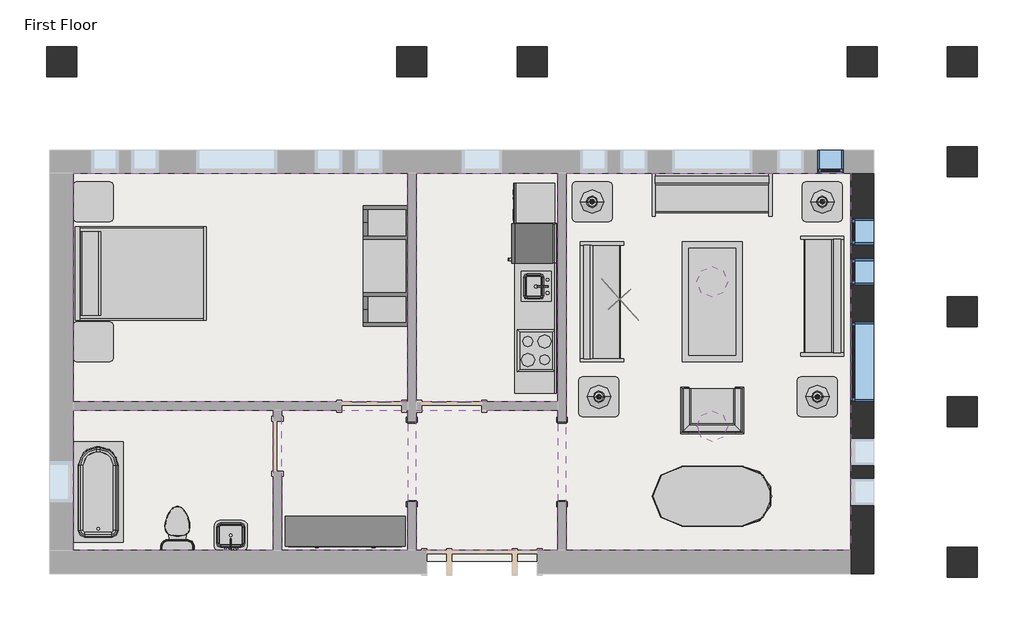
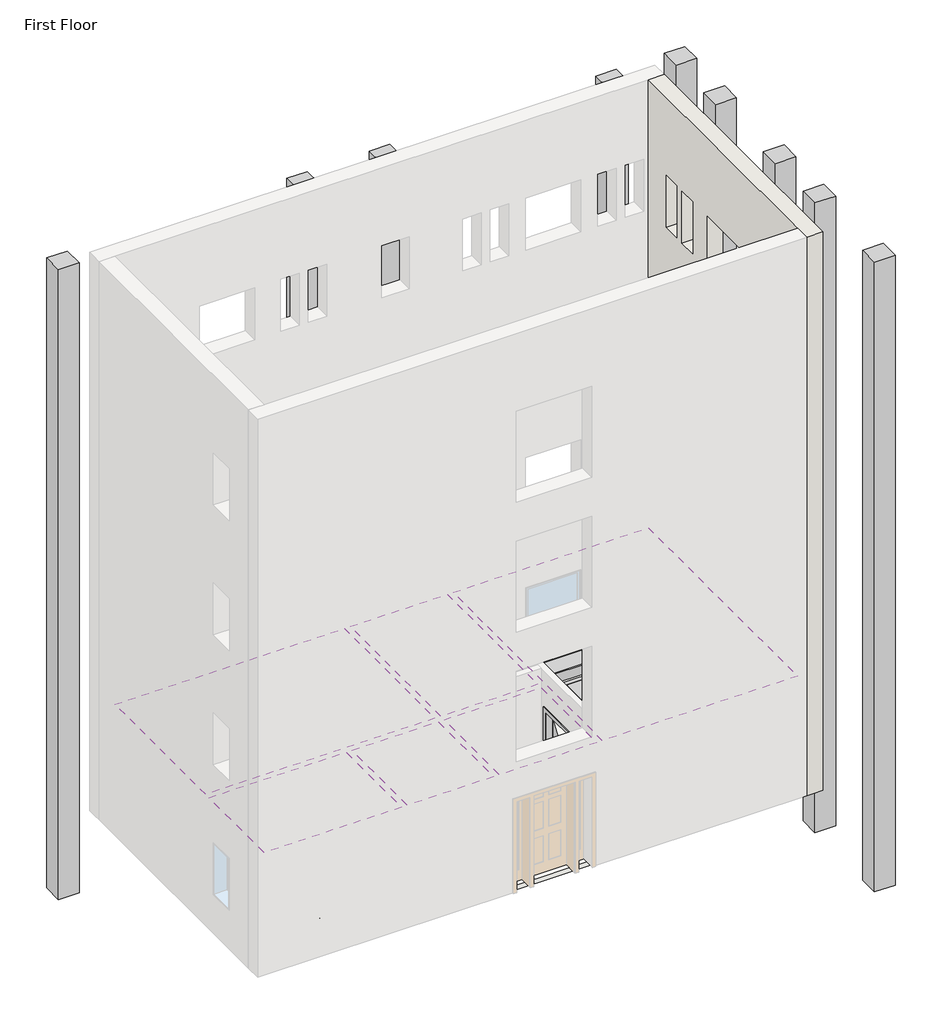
# One storey, part 2 of 2: 16 furniture elements, 9 columns, 7 proxies, 6 coverings, 6 light fixtures, 4 flow terminals, 4 windows, 1 slab, 1 wall.
"""IFC4 building model written with IfcOpenShell, lengths in millimetres."""

from ifc_helpers import new_model, si_unit, frame, origin, place, context, project, spatial, polyline, outline, extrude, faceted_brep, transform, mapped, element, save
from components import proxy_dfcd9396, proxy_3c49123c, proxy_7a545507, proxy_f44482cc, rpc_female_69e001fa, proxy_ec3341c2, flow_terminal_41332a36, flow_terminal_62a433f7, toilet_domestic_3d_toilet_domestic_3d_f7549cf7, toilet_domestic_3d_toilet_domestic_3d_183bbd19, tub_rectangular_3d_tub_rectangular_3d_15036965, furniture_096e7f55, chair_corbu_chair_corbu_2764bdef, furniture_6db689a5, furniture_7c473f12, furniture_cf0b6580, furniture_a4ffab56, furniture_cd93a443, furniture_2c34a4f9, furniture_3a588284, pendant_light_disk_100w_120v_c68bffb6, table_lamp_standard_60w_120v_6e8cd8b1, window_da97879f, window_d61ef850, window_6eb97611

model = new_model("IFC4")

# Units and contexts
model_context = context("Model", 3, world=origin())
ifc_project = project(units=[si_unit("LENGTHUNIT", "METRE", prefix="MILLI")], contexts=[model_context])

# Site, building, storey
site = spatial("IfcSite", under=ifc_project)
building = spatial("IfcBuilding", under=site)
storey = spatial("IfcBuildingStorey", under=building, Name="First Floor", Elevation=0.0)

# Proxies
placement = place(None, origin())
proxy_shape = proxy_dfcd9396(model_context)
element("IfcBuildingElementProxy", 1, Name="Cook Top-4 Unit2 : 22\" x 20\"", ObjectType="Cook Top-4 Unit2 : 22\" x 20\"", at=placement, inside=storey, context=model_context, shape_type="MappedRepresentation", body=[
    mapped(proxy_shape, transform((-4167.1589563, 7568.5224391, 0.0), x_axis=(0.0, 1.0000000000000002, 0.0), y_axis=(-1.0000000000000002, 0.0, 0.0), z_axis=(0.0, 0.0, 1.0))),
])
proxy_2_shape = proxy_3c49123c(model_context)
element("IfcBuildingElementProxy", 2, Name="Dishwasher : 24\" x 24\" x 34\"", ObjectType="Dishwasher : 24\" x 24\" x 34\"", at=placement, inside=storey, context=model_context, shape_type="MappedRepresentation", body=[
    mapped(proxy_2_shape, transform((-4459.0085211, 9434.1049706, 0.0), x_axis=(0.0, 1.0000000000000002, 0.0), y_axis=(-1.0000000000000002, 0.0, 0.0), z_axis=(0.0, 0.0, 1.0))),
])
proxy_3_shape = proxy_7a545507(model_context)
element("IfcBuildingElementProxy", 3, Name="Kitchenette - Medium : 8'6\"", ObjectType="Kitchenette - Medium : 8'6\"", at=placement, inside=storey, context=model_context, shape_type="MappedRepresentation", body=[
    mapped(proxy_3_shape, transform((-3862.3589563, 8197.4847342, 0.0), x_axis=(0.0, 1.0000000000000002, 0.0), y_axis=(-1.0000000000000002, 0.0, 0.0), z_axis=(0.0, 0.0, 1.0))),
])
proxy_4_shape = proxy_f44482cc(model_context)
element("IfcBuildingElementProxy", 4, Name="Opening-Cased : 48\" x 84\"", ObjectType="Opening-Cased : 48\" x 84\"", at=placement, inside=storey, context=model_context, shape_type="MappedRepresentation", body=[
    mapped(proxy_4_shape, transform((-3773.4589563, 5882.4203434, 0.0), x_axis=(0.0, 1.0, 0.0), y_axis=(-1.0, 0.0, 0.0), z_axis=(0.0, 0.0, 1.0))),
])
element("IfcBuildingElementProxy", 5, Name="Opening-Cased : 48\" x 84\"", ObjectType="Opening-Cased : 48\" x 84\"", at=placement, inside=storey, context=model_context, shape_type="MappedRepresentation", body=[
    mapped(proxy_4_shape, transform((-6059.4589563, 5866.04303, 0.0), x_axis=(0.0, -1.0, 0.0), y_axis=(1.0, 0.0, 0.0), z_axis=(0.0, 0.0, 1.0))),
])
rpc_female_shape = rpc_female_69e001fa(model_context)
element("IfcBuildingElementProxy", 6, Name="RPC Female : Cynthia", ObjectType="RPC Female : Cynthia", at=placement, inside=storey, context=model_context, shape_type="MappedRepresentation", body=[
    mapped(rpc_female_shape, transform((-2793.743807, 8229.6, -0.79375), x_axis=(0.74728204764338, 0.6645069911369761, 0.0), y_axis=(-0.6645069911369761, 0.74728204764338, 0.0), z_axis=(0.0, 0.0, 1.0))),
])
proxy_5_shape = proxy_ec3341c2(model_context)
element("IfcBuildingElementProxy", 7, Name="Refrigerator : 24\" x 25\" LH", ObjectType="Refrigerator : 24\" x 25\" LH", at=placement, inside=storey, context=model_context, shape_type="MappedRepresentation", body=[
    mapped(proxy_5_shape, transform((-4212.8079278, 9200.4724391, 0.0), x_axis=(0.0, 1.0000000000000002, 0.0), y_axis=(-1.0000000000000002, 0.0, 0.0), z_axis=(0.0, 0.0, 1.0))),
])

# Columns
element("IfcColumn", 8, ObjectType="Concrete-Square-Column : 18 x 18", at=placement, inside=storey, context=model_context, shape_type="Brep", body=[
    faceted_brep([(1027.1410437, 12198.8316867, -2743.2), (1027.1410437, 11741.6316867, -2743.2), (569.9410437, 11741.6316867, -2743.2), (569.9410437, 12198.8316867, -2743.2), (1027.1410437, 12198.8316867, 12039.6), (1027.1410437, 11741.6316867, 12039.6), (1027.1410437, 11741.6316867, 11734.8), (1027.1410437, 11741.6316867, 9144.0), (1027.1410437, 11741.6316867, 8686.8), (1027.1410437, 11741.6316867, 6096.0), (1027.1410437, 11741.6316867, 5638.8), (1027.1410437, 11741.6316867, 3048.0), (1027.1410437, 11741.6316867, 2590.8), (1027.1410437, 12198.8316867, 2590.8), (1027.1410437, 12198.8316867, 3048.0), (1027.1410437, 12198.8316867, 5638.8), (1027.1410437, 12198.8316867, 6096.0), (1027.1410437, 12198.8316867, 8686.8), (1027.1410437, 12198.8316867, 9144.0), (1027.1410437, 12198.8316867, 11734.8), (569.9410437, 11741.6316867, 12039.6), (569.9410437, 11741.6316867, 11734.8), (569.9410437, 11741.6316867, 9144.0), (569.9410437, 11741.6316867, 8686.8), (569.9410437, 11741.6316867, 6096.0), (569.9410437, 11741.6316867, 5638.8), (569.9410437, 11741.6316867, 3048.0), (569.9410437, 11741.6316867, 2590.8), (569.9410437, 12198.8316867, 12039.6), (569.9410437, 12198.8316867, 11734.8), (569.9410437, 12198.8316867, 9144.0), (569.9410437, 12198.8316867, 8686.8), (569.9410437, 12198.8316867, 6096.0), (569.9410437, 12198.8316867, 5638.8), (569.9410437, 12198.8316867, 3048.0), (569.9410437, 12198.8316867, 2590.8)], [[[0, 1, 2, 3]], [[4, 5, 6, 7, 8, 9, 10, 11, 12, 1, 0, 13, 14, 15, 16, 17, 18, 19]], [[5, 20, 21, 22, 23, 24, 25, 26, 27, 2, 1, 12, 11, 10, 9, 8, 7, 6]], [[20, 28, 29, 30, 31, 32, 33, 34, 35, 3, 2, 27, 26, 25, 24, 23, 22, 21]], [[28, 4, 19, 18, 17, 16, 15, 14, 13, 0, 3, 35, 34, 33, 32, 31, 30, 29]], [[4, 28, 20, 5]]]),
])
element("IfcColumn", 9, ObjectType="Concrete-Square-Column : 18 x 18", at=placement, inside=storey, context=model_context, shape_type="Brep", body=[
    faceted_brep([(2551.1410437, 12198.8316867, -2743.2), (2551.1410437, 11741.6316867, -2743.2), (2093.9410437, 11741.6316867, -2743.2), (2093.9410437, 12198.8316867, -2743.2), (2551.1410437, 12198.8316867, 12039.6), (2551.1410437, 11741.6316867, 12039.6), (2551.1410437, 11741.6316867, 11734.8), (2093.9410437, 11741.6316867, 12039.6), (2093.9410437, 11741.6316867, 11734.8), (2093.9410437, 12198.8316867, 12039.6), (2093.9410437, 12198.8316867, 11734.8)], [[[0, 1, 2, 3]], [[4, 5, 6, 1, 0]], [[5, 7, 8, 2, 1, 6]], [[7, 9, 10, 3, 2, 8]], [[9, 4, 0, 3, 10]], [[4, 9, 7, 5]]]),
])
element("IfcColumn", 10, ObjectType="Concrete-Square-Column : 18 x 18", at=placement, inside=storey, context=model_context, shape_type="Brep", body=[
    faceted_brep([(-4002.0589563, 12198.8316867, -2743.2), (-4002.0589563, 11741.6316867, -2743.2), (-4459.2589563, 11741.6316867, -2743.2), (-4459.2589563, 12198.8316867, -2743.2), (-4002.0589563, 12198.8316867, 12039.6), (-4002.0589563, 11741.6316867, 12039.6), (-4002.0589563, 11741.6316867, 11734.8), (-4002.0589563, 11741.6316867, 9144.0), (-4002.0589563, 11741.6316867, 8686.8), (-4002.0589563, 11741.6316867, 6096.0), (-4002.0589563, 11741.6316867, 5638.8), (-4002.0589563, 11741.6316867, 3048.0), (-4002.0589563, 11741.6316867, 2590.8), (-4002.0589563, 12198.8316867, 2590.8), (-4002.0589563, 12198.8316867, 3048.0), (-4002.0589563, 12198.8316867, 5638.8), (-4002.0589563, 12198.8316867, 6096.0), (-4002.0589563, 12198.8316867, 8686.8), (-4002.0589563, 12198.8316867, 9144.0), (-4002.0589563, 12198.8316867, 11734.8), (-4459.2589563, 11741.6316867, 12039.6), (-4459.2589563, 11741.6316867, 11734.8), (-4459.2589563, 11741.6316867, 9144.0), (-4459.2589563, 11741.6316867, 8686.8), (-4459.2589563, 11741.6316867, 6096.0), (-4459.2589563, 11741.6316867, 5638.8), (-4459.2589563, 11741.6316867, 3048.0), (-4459.2589563, 11741.6316867, 2590.8), (-4459.2589563, 12198.8316867, 12039.6), (-4459.2589563, 12198.8316867, 11734.8), (-4459.2589563, 12198.8316867, 9144.0), (-4459.2589563, 12198.8316867, 8686.8), (-4459.2589563, 12198.8316867, 6096.0), (-4459.2589563, 12198.8316867, 5638.8), (-4459.2589563, 12198.8316867, 3048.0), (-4459.2589563, 12198.8316867, 2590.8)], [[[0, 1, 2, 3]], [[4, 5, 6, 7, 8, 9, 10, 11, 12, 1, 0, 13, 14, 15, 16, 17, 18, 19]], [[5, 20, 21, 22, 23, 24, 25, 26, 27, 2, 1, 12, 11, 10, 9, 8, 7, 6]], [[20, 28, 29, 30, 31, 32, 33, 34, 35, 3, 2, 27, 26, 25, 24, 23, 22, 21]], [[28, 4, 19, 18, 17, 16, 15, 14, 13, 0, 3, 35, 34, 33, 32, 31, 30, 29]], [[4, 28, 20, 5]]]),
])
element("IfcColumn", 11, ObjectType="Concrete-Square-Column : 18 x 18", at=placement, inside=storey, context=model_context, shape_type="Brep", body=[
    faceted_brep([(-5830.8589563, 12198.8316867, -2743.2), (-5830.8589563, 11741.6316867, -2743.2), (-6288.0589563, 11741.6316867, -2743.2), (-6288.0589563, 12198.8316867, -2743.2), (-5830.8589563, 12198.8316867, 12039.6), (-5830.8589563, 11741.6316867, 12039.6), (-5830.8589563, 11741.6316867, 11734.8), (-5830.8589563, 11741.6316867, 9144.0), (-5830.8589563, 11741.6316867, 8686.8), (-5830.8589563, 11741.6316867, 6096.0), (-5830.8589563, 11741.6316867, 5638.8), (-5830.8589563, 11741.6316867, 3048.0), (-5830.8589563, 11741.6316867, 2590.8), (-5830.8589563, 12198.8316867, 2590.8), (-5830.8589563, 12198.8316867, 3048.0), (-5830.8589563, 12198.8316867, 5638.8), (-5830.8589563, 12198.8316867, 6096.0), (-5830.8589563, 12198.8316867, 8686.8), (-5830.8589563, 12198.8316867, 9144.0), (-5830.8589563, 12198.8316867, 11734.8), (-6288.0589563, 11741.6316867, 12039.6), (-6288.0589563, 11741.6316867, 11734.8), (-6288.0589563, 11741.6316867, 9144.0), (-6288.0589563, 11741.6316867, 8686.8), (-6288.0589563, 11741.6316867, 6096.0), (-6288.0589563, 11741.6316867, 5638.8), (-6288.0589563, 11741.6316867, 3048.0), (-6288.0589563, 11741.6316867, 2590.8), (-6288.0589563, 12198.8316867, 12039.6), (-6288.0589563, 12198.8316867, 11734.8), (-6288.0589563, 12198.8316867, 9144.0), (-6288.0589563, 12198.8316867, 8686.8), (-6288.0589563, 12198.8316867, 6096.0), (-6288.0589563, 12198.8316867, 5638.8), (-6288.0589563, 12198.8316867, 3048.0), (-6288.0589563, 12198.8316867, 2590.8)], [[[0, 1, 2, 3]], [[4, 5, 6, 7, 8, 9, 10, 11, 12, 1, 0, 13, 14, 15, 16, 17, 18, 19]], [[5, 20, 21, 22, 23, 24, 25, 26, 27, 2, 1, 12, 11, 10, 9, 8, 7, 6]], [[20, 28, 29, 30, 31, 32, 33, 34, 35, 3, 2, 27, 26, 25, 24, 23, 22, 21]], [[28, 4, 19, 18, 17, 16, 15, 14, 13, 0, 3, 35, 34, 33, 32, 31, 30, 29]], [[4, 28, 20, 5]]]),
])
element("IfcColumn", 12, ObjectType="Concrete-Square-Column : 18 x 18", at=placement, inside=storey, context=model_context, shape_type="Brep", body=[
    faceted_brep([(-11164.8589563, 12198.8316867, -2743.2), (-11164.8589563, 11741.6316867, -2743.2), (-11622.0589563, 11741.6316867, -2743.2), (-11622.0589563, 12198.8316867, -2743.2), (-11164.8589563, 12198.8316867, 12039.6), (-11164.8589563, 11741.6316867, 12039.6), (-11164.8589563, 11741.6316867, 11734.8), (-11164.8589563, 12198.8316867, 11734.8), (-11622.0589563, 11741.6316867, 12039.6), (-11622.0589563, 12198.8316867, 12039.6)], [[[0, 1, 2, 3]], [[4, 5, 6, 1, 0, 7]], [[5, 8, 2, 1, 6]], [[8, 9, 3, 2]], [[9, 4, 7, 0, 3]], [[4, 9, 8, 5]]]),
])
element("IfcColumn", 13, ObjectType="Concrete-Square-Column : 18 x 18", at=placement, inside=storey, context=model_context, shape_type="Brep", body=[
    faceted_brep([(2551.1410437, 10674.8316867, -2743.2), (2551.1410437, 10217.6316867, -2743.2), (2093.9410437, 10217.6316867, -2743.2), (2093.9410437, 10674.8316867, -2743.2), (2551.1410437, 10674.8316867, 12039.6), (2551.1410437, 10217.6316867, 12039.6), (2551.1410437, 10217.6316867, 11734.8), (2551.1410437, 10217.6316867, 9144.0), (2551.1410437, 10217.6316867, 8686.8), (2551.1410437, 10217.6316867, 6096.0), (2551.1410437, 10217.6316867, 5638.8), (2551.1410437, 10217.6316867, 3048.0), (2551.1410437, 10217.6316867, 2590.8), (2551.1410437, 10674.8316867, 2590.8), (2551.1410437, 10674.8316867, 3048.0), (2551.1410437, 10674.8316867, 5638.8), (2551.1410437, 10674.8316867, 6096.0), (2551.1410437, 10674.8316867, 8686.8), (2551.1410437, 10674.8316867, 9144.0), (2551.1410437, 10674.8316867, 11734.8), (2093.9410437, 10217.6316867, 12039.6), (2093.9410437, 10217.6316867, 11734.8), (2093.9410437, 10217.6316867, 9144.0), (2093.9410437, 10217.6316867, 8686.8), (2093.9410437, 10217.6316867, 6096.0), (2093.9410437, 10217.6316867, 5638.8), (2093.9410437, 10217.6316867, 3048.0), (2093.9410437, 10217.6316867, 2590.8), (2093.9410437, 10674.8316867, 12039.6), (2093.9410437, 10674.8316867, 11734.8), (2093.9410437, 10674.8316867, 9144.0), (2093.9410437, 10674.8316867, 8686.8), (2093.9410437, 10674.8316867, 6096.0), (2093.9410437, 10674.8316867, 5638.8), (2093.9410437, 10674.8316867, 3048.0), (2093.9410437, 10674.8316867, 2590.8)], [[[0, 1, 2, 3]], [[4, 5, 6, 7, 8, 9, 10, 11, 12, 1, 0, 13, 14, 15, 16, 17, 18, 19]], [[5, 20, 21, 22, 23, 24, 25, 26, 27, 2, 1, 12, 11, 10, 9, 8, 7, 6]], [[20, 28, 29, 30, 31, 32, 33, 34, 35, 3, 2, 27, 26, 25, 24, 23, 22, 21]], [[28, 4, 19, 18, 17, 16, 15, 14, 13, 0, 3, 35, 34, 33, 32, 31, 30, 29]], [[4, 28, 20, 5]]]),
])
element("IfcColumn", 14, ObjectType="Concrete-Square-Column : 18 x 18", at=placement, inside=storey, context=model_context, shape_type="Brep", body=[
    faceted_brep([(2551.1410437, 8388.8316867, -2743.2), (2551.1410437, 7931.6316867, -2743.2), (2093.9410437, 7931.6316867, -2743.2), (2093.9410437, 8388.8316867, -2743.2), (2551.1410437, 8388.8316867, 12039.6), (2551.1410437, 7931.6316867, 12039.6), (2551.1410437, 7931.6316867, 11734.8), (2551.1410437, 7931.6316867, 9144.0), (2551.1410437, 7931.6316867, 8686.8), (2551.1410437, 7931.6316867, 6096.0), (2551.1410437, 7931.6316867, 5638.8), (2551.1410437, 7931.6316867, 3048.0), (2551.1410437, 7931.6316867, 2590.8), (2551.1410437, 8388.8316867, 2590.8), (2551.1410437, 8388.8316867, 3048.0), (2551.1410437, 8388.8316867, 5638.8), (2551.1410437, 8388.8316867, 6096.0), (2551.1410437, 8388.8316867, 8686.8), (2551.1410437, 8388.8316867, 9144.0), (2551.1410437, 8388.8316867, 11734.8), (2093.9410437, 7931.6316867, 12039.6), (2093.9410437, 7931.6316867, 11734.8), (2093.9410437, 7931.6316867, 9144.0), (2093.9410437, 7931.6316867, 8686.8), (2093.9410437, 7931.6316867, 6096.0), (2093.9410437, 7931.6316867, 5638.8), (2093.9410437, 7931.6316867, 3048.0), (2093.9410437, 7931.6316867, 2590.8), (2093.9410437, 8388.8316867, 12039.6), (2093.9410437, 8388.8316867, 11734.8), (2093.9410437, 8388.8316867, 9144.0), (2093.9410437, 8388.8316867, 8686.8), (2093.9410437, 8388.8316867, 6096.0), (2093.9410437, 8388.8316867, 5638.8), (2093.9410437, 8388.8316867, 3048.0), (2093.9410437, 8388.8316867, 2590.8)], [[[0, 1, 2, 3]], [[4, 5, 6, 7, 8, 9, 10, 11, 12, 1, 0, 13, 14, 15, 16, 17, 18, 19]], [[5, 20, 21, 22, 23, 24, 25, 26, 27, 2, 1, 12, 11, 10, 9, 8, 7, 6]], [[20, 28, 29, 30, 31, 32, 33, 34, 35, 3, 2, 27, 26, 25, 24, 23, 22, 21]], [[28, 4, 19, 18, 17, 16, 15, 14, 13, 0, 3, 35, 34, 33, 32, 31, 30, 29]], [[4, 28, 20, 5]]]),
])
element("IfcColumn", 15, ObjectType="Concrete-Square-Column : 18 x 18", at=placement, inside=storey, context=model_context, shape_type="Brep", body=[
    faceted_brep([(2551.1410437, 6864.8316867, -2743.2), (2551.1410437, 6407.6316867, -2743.2), (2093.9410437, 6407.6316867, -2743.2), (2093.9410437, 6864.8316867, -2743.2), (2551.1410437, 6864.8316867, 12039.6), (2551.1410437, 6407.6316867, 12039.6), (2551.1410437, 6407.6316867, 11734.8), (2551.1410437, 6407.6316867, 9144.0), (2551.1410437, 6407.6316867, 8686.8), (2551.1410437, 6407.6316867, 6096.0), (2551.1410437, 6407.6316867, 5638.8), (2551.1410437, 6407.6316867, 3048.0), (2551.1410437, 6407.6316867, 2590.8), (2551.1410437, 6864.8316867, 2590.8), (2551.1410437, 6864.8316867, 3048.0), (2551.1410437, 6864.8316867, 5638.8), (2551.1410437, 6864.8316867, 6096.0), (2551.1410437, 6864.8316867, 8686.8), (2551.1410437, 6864.8316867, 9144.0), (2551.1410437, 6864.8316867, 11734.8), (2093.9410437, 6407.6316867, 12039.6), (2093.9410437, 6407.6316867, 11734.8), (2093.9410437, 6407.6316867, 9144.0), (2093.9410437, 6407.6316867, 8686.8), (2093.9410437, 6407.6316867, 6096.0), (2093.9410437, 6407.6316867, 5638.8), (2093.9410437, 6407.6316867, 3048.0), (2093.9410437, 6407.6316867, 2590.8), (2093.9410437, 6864.8316867, 12039.6), (2093.9410437, 6864.8316867, 11734.8), (2093.9410437, 6864.8316867, 9144.0), (2093.9410437, 6864.8316867, 8686.8), (2093.9410437, 6864.8316867, 6096.0), (2093.9410437, 6864.8316867, 5638.8), (2093.9410437, 6864.8316867, 3048.0), (2093.9410437, 6864.8316867, 2590.8)], [[[0, 1, 2, 3]], [[4, 5, 6, 7, 8, 9, 10, 11, 12, 1, 0, 13, 14, 15, 16, 17, 18, 19]], [[5, 20, 21, 22, 23, 24, 25, 26, 27, 2, 1, 12, 11, 10, 9, 8, 7, 6]], [[20, 28, 29, 30, 31, 32, 33, 34, 35, 3, 2, 27, 26, 25, 24, 23, 22, 21]], [[28, 4, 19, 18, 17, 16, 15, 14, 13, 0, 3, 35, 34, 33, 32, 31, 30, 29]], [[4, 28, 20, 5]]]),
])
element("IfcColumn", 16, ObjectType="Concrete-Square-Column : 18 x 18", at=placement, inside=storey, context=model_context, shape_type="Brep", body=[
    faceted_brep([(2551.1410437, 4578.8316867, -2743.2), (2551.1410437, 4121.6316867, -2743.2), (2093.9410437, 4121.6316867, -2743.2), (2093.9410437, 4578.8316867, -2743.2), (2551.1410437, 4578.8316867, 12039.6), (2551.1410437, 4121.6316867, 12039.6), (2551.1410437, 4578.8316867, 11734.8), (2093.9410437, 4121.6316867, 12039.6), (2093.9410437, 4578.8316867, 12039.6), (2093.9410437, 4578.8316867, 11734.8)], [[[0, 1, 2, 3]], [[4, 5, 1, 0, 6]], [[5, 7, 2, 1]], [[7, 8, 9, 3, 2]], [[8, 4, 6, 0, 3, 9]], [[4, 8, 7, 5]]]),
])

# Coverings
element("IfcCovering", 17, ObjectType="GWB on Mtl. Stud", at=placement, inside=storey, context=model_context, shape_type="SweptSolid", body=[
    extrude(outline(polyline([(-11217.2464563, 10270.0191867), (-6122.9589563, 10270.0191867), (-6122.9589563, 6787.0441867), (-11217.2464563, 6787.0441867), (-11217.2464563, 10270.0191867)])), frame((0.0, 0.0, 2590.8), z_axis=(0.0, 0.0, 1.0), x_axis=(1.0, 0.0, 0.0)), (0.0, 0.0, 1.0), 107.95),
])
element("IfcCovering", 18, ObjectType="GWB on Mtl. Stud", at=placement, inside=storey, context=model_context, shape_type="SweptSolid", body=[
    extrude(outline(polyline([(-5995.9589563, 6787.0441867), (-5995.9589563, 10270.0191867), (-3836.9589563, 10270.0191867), (-3836.9589563, 6787.0441867), (-5995.9589563, 6787.0441867)])), frame((0.0, 0.0, 2590.8), z_axis=(0.0, 0.0, 1.0), x_axis=(1.0, 0.0, 0.0)), (0.0, 0.0, 1.0), 107.95),
])
element("IfcCovering", 19, ObjectType="GWB on Mtl. Stud", at=placement, inside=storey, context=model_context, shape_type="SweptSolid", body=[
    extrude(outline(polyline([(-3709.9589563, 4526.4441867), (-3709.9589563, 10270.0191867), (622.3285437, 10270.0191867), (622.3285437, 4526.4441867), (-3709.9589563, 4526.4441867)])), frame((0.0, 0.0, 2590.8), z_axis=(0.0, 0.0, 1.0), x_axis=(1.0, 0.0, 0.0)), (0.0, 0.0, 1.0), 107.95),
])
element("IfcCovering", 20, ObjectType="GWB on Mtl. Stud", at=placement, inside=storey, context=model_context, shape_type="SweptSolid", body=[
    extrude(outline(polyline([(-3836.9589563, 4526.4441867), (-5995.9589563, 4526.4441867), (-5995.9589563, 6660.0441867), (-3836.9589563, 6660.0441867), (-3836.9589563, 4526.4441867)])), frame((0.0, 0.0, 2590.8), z_axis=(0.0, 0.0, 1.0), x_axis=(1.0, 0.0, 0.0)), (0.0, 0.0, 1.0), 107.95),
])
element("IfcCovering", 21, ObjectType="GWB on Mtl. Stud", at=placement, inside=storey, context=model_context, shape_type="SweptSolid", body=[
    extrude(outline(polyline([(-8169.2464563, 6660.0441867), (-8169.2464563, 4526.4441867), (-11217.2464563, 4526.4441867), (-11217.2464563, 6660.0441867), (-8169.2464563, 6660.0441867)])), frame((0.0, 0.0, 2590.8), z_axis=(0.0, 0.0, 1.0), x_axis=(1.0, 0.0, 0.0)), (0.0, 0.0, 1.0), 107.95),
])
element("IfcCovering", 22, ObjectType="GWB on Mtl. Stud", at=placement, inside=storey, context=model_context, shape_type="SweptSolid", body=[
    extrude(outline(polyline([(-6122.9589563, 4526.4441867), (-8042.2464563, 4526.4441867), (-8042.2464563, 6660.0441867), (-6122.9589563, 6660.0441867), (-6122.9589563, 4526.4441867)])), frame((0.0, 0.0, 2590.8), z_axis=(0.0, 0.0, 1.0), x_axis=(1.0, 0.0, 0.0)), (0.0, 0.0, 1.0), 107.95),
])

# Flow terminals
flow_terminal_shape = flow_terminal_41332a36(model_context)
element("IfcFlowTerminal", 23, ObjectType="Sink Kitchen-Island : 18\" x 18\"", at=placement, inside=storey, context=model_context, shape_type="MappedRepresentation", body=[
    mapped(flow_terminal_shape, transform((-4169.5043574, 8530.7331986, -14.4), x_axis=(0.0, 1.0000000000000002, 0.0), y_axis=(-1.0000000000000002, 0.0, 0.0), z_axis=(0.0, 0.0, 1.0))),
])
flow_terminal_2_shape = flow_terminal_62a433f7(model_context)
element("IfcFlowTerminal", 24, ObjectType="Sink Vanity-Square : 20\" x 18\"", at=placement, inside=storey, context=model_context, shape_type="MappedRepresentation", body=[
    mapped(flow_terminal_2_shape, transform((-8801.2572158, 4706.5895878, 0.0), x_axis=(-1.0, 0.0, 0.0), y_axis=(0.0, -1.0, 0.0), z_axis=(0.0, 0.0, 1.0))),
])
toilet_domestic_3d_toilet_domestic_3d_shape = toilet_domestic_3d_toilet_domestic_3d_f7549cf7(model_context)
toilet_domestic_3d_toilet_domestic_3d_2_shape = toilet_domestic_3d_toilet_domestic_3d_183bbd19(model_context)
element("IfcFlowTerminal", 25, ObjectType="Toilet-Domestic-3D : Toilet-Domestic-3D", at=placement, inside=storey, context=model_context, shape_type="MappedRepresentation", body=[
    mapped(toilet_domestic_3d_toilet_domestic_3d_shape, transform((-9629.7464563, 4894.7441867, 0.0), x_axis=(-1.0, 0.0, 0.0), y_axis=(0.0, -1.0, 0.0), z_axis=(0.0, 0.0, 1.0))),
    mapped(toilet_domestic_3d_toilet_domestic_3d_2_shape, transform((-9629.7464563, 4894.7441867, 0.0), x_axis=(-1.0, 0.0, 0.0), y_axis=(0.0, -1.0, 0.0), z_axis=(0.0, 0.0, 1.0))),
])
tub_rectangular_3d_tub_rectangular_3d_shape = tub_rectangular_3d_tub_rectangular_3d_15036965(model_context)
element("IfcFlowTerminal", 26, ObjectType="Tub-Rectangular-3D : Tub-Rectangular-3D", at=placement, inside=storey, context=model_context, shape_type="MappedRepresentation", body=[
    mapped(tub_rectangular_3d_tub_rectangular_3d_shape, transform((-11393.4589563, 5765.6346554, 0.0), x_axis=(0.0, 1.0, 0.0), y_axis=(-1.0, 0.0, 0.0), z_axis=(0.0, 0.0, 1.0))),
])

# Furniture
furniture_shape = furniture_096e7f55(model_context)
element("IfcFurniture", 27, ObjectType="Bed-Shaker : Double 56\" x 78\"", at=placement, inside=storey, context=model_context, shape_type="MappedRepresentation", body=[
    mapped(furniture_shape, transform((-11172.0857802, 8763.4816867, 0.0), x_axis=(0.0, 1.0, 0.0), y_axis=(-1.0, 0.0, 0.0), z_axis=(0.0, 0.0, 1.0))),
])
chair_corbu_chair_corbu_shape = chair_corbu_chair_corbu_2764bdef(model_context)
element("IfcFurniture", 28, ObjectType="Chair-Corbu : Chair-Corbu", at=placement, inside=storey, context=model_context, shape_type="MappedRepresentation", body=[
    mapped(chair_corbu_chair_corbu_shape, transform((-914.0851858, 7126.8212359, 0.0), x_axis=(-1.0, 0.0, 0.0), y_axis=(0.0, -1.0, 0.0), z_axis=(0.0, 0.0, 1.0))),
])
furniture_2_shape = furniture_6db689a5(model_context)
element("IfcFurniture", 29, ObjectType="Counter Top w Sink Hole : 24\" Depth", at=placement, inside=storey, context=model_context, shape_type="MappedRepresentation", body=[
    mapped(furniture_2_shape, transform((-3862.3589563, 8121.2847342, -14.4), x_axis=(0.0, 1.0000000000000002, 0.0), y_axis=(-1.0000000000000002, 0.0, 0.0), z_axis=(0.0, 0.0, 1.0))),
])
furniture_3_shape = furniture_7c473f12(model_context)
element("IfcFurniture", 30, ObjectType="Dresser : 72\" x 60\" x 18\"", at=placement, inside=storey, context=model_context, shape_type="MappedRepresentation", body=[
    mapped(furniture_3_shape, transform((-6806.2656965, 5181.7071408, 0.0), x_axis=(1.0, 0.0, 0.0), y_axis=(0.0, 1.0, 0.0), z_axis=(0.0, 0.0, 1.0))),
])
furniture_4_shape = furniture_cf0b6580(model_context)
element("IfcFurniture", 31, ObjectType="Entertainment Center : 72\" x 72\" x 24\"", at=placement, inside=storey, context=model_context, shape_type="MappedRepresentation", body=[
    mapped(furniture_4_shape, transform((-6021.3589563, 8857.1441867, 0.0), x_axis=(0.0, -1.0, 0.0), y_axis=(1.0, 0.0, 0.0), z_axis=(0.0, 0.0, 1.0))),
])
furniture_5_shape = furniture_a4ffab56(model_context)
element("IfcFurniture", 32, ObjectType="Sofa : 72\"", at=placement, inside=storey, context=model_context, shape_type="MappedRepresentation", body=[
    mapped(furniture_5_shape, transform((-3017.704858, 8242.2611949, 0.0), x_axis=(0.0, 1.0, 0.0), y_axis=(-1.0, 0.0, 0.0), z_axis=(0.0, 0.0, 1.0))),
])
element("IfcFurniture", 33, ObjectType="Sofa : 72\"", at=placement, inside=storey, context=model_context, shape_type="MappedRepresentation", body=[
    mapped(furniture_5_shape, transform((-1557.8294481, 9801.5748071, 0.0), x_axis=(1.0, 0.0, 0.0), y_axis=(0.0, 1.0, 0.0), z_axis=(0.0, 0.0, 1.0))),
])
element("IfcFurniture", 34, ObjectType="Sofa : 72\"", at=placement, inside=storey, context=model_context, shape_type="MappedRepresentation", body=[
    mapped(furniture_5_shape, transform((42.7869453, 8470.3146785, 0.0), x_axis=(0.0, -1.0, 0.0), y_axis=(1.0, 0.0, 0.0), z_axis=(0.0, 0.0, 1.0))),
])
furniture_6_shape = furniture_cd93a443(model_context)
element("IfcFurniture", 35, ObjectType="Table-Coffee : 36\" x 72\" x 18\"", at=placement, inside=storey, context=model_context, shape_type="MappedRepresentation", body=[
    mapped(furniture_6_shape, transform((-1392.2478785, 8294.36592, 0.0), x_axis=(0.0, 1.0, 0.0), y_axis=(-1.0, 0.0, 0.0), z_axis=(0.0, 0.0, 1.0))),
])
furniture_7_shape = furniture_2c34a4f9(model_context)
element("IfcFurniture", 36, ObjectType="Table-Dining Oval : 36\" x 72\"", at=placement, inside=storey, context=model_context, shape_type="MappedRepresentation", body=[
    mapped(furniture_7_shape, transform((-1085.6392842, 5710.0425473, 0.0), x_axis=(1.0, 0.0, 0.0), y_axis=(0.0, 1.0, 0.0), z_axis=(0.0, 0.0, 1.0))),
])
furniture_8_shape = furniture_3a588284(model_context)
element("IfcFurniture", 37, ObjectType="Table-End : 24\" x 24\"", at=placement, inside=storey, context=model_context, shape_type="MappedRepresentation", body=[
    mapped(furniture_8_shape, transform((-119.5925866, 9684.2316867, 0.0), x_axis=(1.0, 0.0, 0.0), y_axis=(0.0, 1.0, 0.0), z_axis=(0.0, 0.0, 1.0))),
])
element("IfcFurniture", 38, ObjectType="Table-End : 24\" x 24\"", at=placement, inside=storey, context=model_context, shape_type="MappedRepresentation", body=[
    mapped(furniture_8_shape, transform((-11220.9800866, 7550.6316867, 0.0), x_axis=(1.0, 0.0, 0.0), y_axis=(0.0, 1.0, 0.0), z_axis=(0.0, 0.0, 1.0))),
])
element("IfcFurniture", 39, ObjectType="Table-End : 24\" x 24\"", at=placement, inside=storey, context=model_context, shape_type="MappedRepresentation", body=[
    mapped(furniture_8_shape, transform((-11220.9800866, 9684.2316867, 0.0), x_axis=(1.0, 0.0, 0.0), y_axis=(0.0, 1.0, 0.0), z_axis=(0.0, 0.0, 1.0))),
])
element("IfcFurniture", 40, ObjectType="Table-End : 24\" x 24\"", at=placement, inside=storey, context=model_context, shape_type="MappedRepresentation", body=[
    mapped(furniture_8_shape, transform((-3624.7925866, 9684.2316867, 0.0), x_axis=(1.0, 0.0, 0.0), y_axis=(0.0, 1.0, 0.0), z_axis=(0.0, 0.0, 1.0))),
])
element("IfcFurniture", 41, ObjectType="Table-End : 24\" x 24\"", at=placement, inside=storey, context=model_context, shape_type="MappedRepresentation", body=[
    mapped(furniture_8_shape, transform((-3521.0782623, 6714.242027, 0.0), x_axis=(1.0, 0.0, 0.0), y_axis=(0.0, 1.0, 0.0), z_axis=(0.0, 0.0, 1.0))),
])
element("IfcFurniture", 42, ObjectType="Table-End : 24\" x 24\"", at=placement, inside=storey, context=model_context, shape_type="MappedRepresentation", body=[
    mapped(furniture_8_shape, transform((-193.6782623, 6714.242027, 0.0), x_axis=(1.0, 0.0, 0.0), y_axis=(0.0, 1.0, 0.0), z_axis=(0.0, 0.0, 1.0))),
])

# Light fixtures
pendant_light_disk_100w_120v_shape = pendant_light_disk_100w_120v_c68bffb6(model_context)
element("IfcLightFixture", 43, ObjectType="Pendant Light - Disk : 100W - 120V", at=placement, inside=storey, context=model_context, shape_type="MappedRepresentation", body=[
    mapped(pendant_light_disk_100w_120v_shape, transform((-1487.4589563, 8617.4316867, 152.3999938), x_axis=(1.0, 0.0, 0.0), y_axis=(0.0, 1.0, 0.0), z_axis=(0.0, 0.0, 1.0))),
])
element("IfcLightFixture", 44, ObjectType="Pendant Light - Disk : 100W - 120V", at=placement, inside=storey, context=model_context, shape_type="MappedRepresentation", body=[
    mapped(pendant_light_disk_100w_120v_shape, transform((-1487.4589563, 6418.7441867, 152.3999938), x_axis=(1.0, 0.0, 0.0), y_axis=(0.0, 1.0, 0.0), z_axis=(0.0, 0.0, 1.0))),
])
table_lamp_standard_60w_120v_shape = table_lamp_standard_60w_120v_6e8cd8b1(model_context)
element("IfcLightFixture", 45, ObjectType="Table Lamp - Standard : 60W - 120V", at=placement, inside=storey, context=model_context, shape_type="MappedRepresentation", body=[
    mapped(table_lamp_standard_60w_120v_shape, transform((-3316.2589563, 9836.6316867, 381.0), x_axis=(1.0, 0.0, 0.0), y_axis=(0.0, 1.0, 0.0), z_axis=(0.0, 0.0, 1.0))),
])
element("IfcLightFixture", 46, ObjectType="Table Lamp - Standard : 60W - 120V", at=placement, inside=storey, context=model_context, shape_type="MappedRepresentation", body=[
    mapped(table_lamp_standard_60w_120v_shape, transform((188.9410437, 9836.6316867, 381.0), x_axis=(1.0, 0.0, 0.0), y_axis=(0.0, 1.0, 0.0), z_axis=(0.0, 0.0, 1.0))),
])
element("IfcLightFixture", 47, ObjectType="Table Lamp - Standard : 60W - 120V", at=placement, inside=storey, context=model_context, shape_type="MappedRepresentation", body=[
    mapped(table_lamp_standard_60w_120v_shape, transform((-3212.544632, 6866.642027, 381.0), x_axis=(1.0, 0.0, 0.0), y_axis=(0.0, 1.0, 0.0), z_axis=(0.0, 0.0, 1.0))),
])
element("IfcLightFixture", 48, ObjectType="Table Lamp - Standard : 60W - 120V", at=placement, inside=storey, context=model_context, shape_type="MappedRepresentation", body=[
    mapped(table_lamp_standard_60w_120v_shape, transform((114.855368, 6866.642027, 381.0), x_axis=(1.0, 0.0, 0.0), y_axis=(0.0, 1.0, 0.0), z_axis=(0.0, 0.0, 1.0))),
])

# Slab
element("IfcSlab", 49, ObjectType="LW Concrete on Metal Deck", at=placement, inside=storey, context=model_context, shape_type="SweptSolid", body=[
    extrude(outline(polyline([(787.4285437, 10435.1191867), (787.4285437, 4361.3441867), (-11382.3464563, 4361.3441867), (-11382.3464563, 10435.1191867), (787.4285437, 10435.1191867)])), frame((0.0, 0.0, -104.775), z_axis=(0.0, 0.0, 1.0), x_axis=(1.0, 0.0, 0.0)), (0.0, 0.0, 1.0), 104.775),
])

# Wall
element("IfcWall", 50, ObjectType="Exterior - Brick on Mtl. Stud", at=placement, inside=storey, context=model_context, shape_type="Brep", body=[
    faceted_brep([(622.3285437, 10270.0191867, 13106.4), (622.3285437, 4526.4441867, 13106.4), (622.3285437, 4174.0191867, 13106.4), (974.7535437, 4174.0191867, 13106.4), (974.7535437, 10270.0191867, 13106.4), (622.3285437, 10270.0191867, 0.0), (622.3285437, 4526.4441867, 0.0), (622.3285437, 4361.3441867, 0.0), (622.3285437, 4174.0191867, 0.0), (622.3285437, 5823.4316867, 8229.6), (622.3285437, 5823.4316867, 7010.4), (622.3285437, 6229.8316867, 7010.4), (622.3285437, 6229.8316867, 8229.6), (622.3285437, 5213.8316867, 8229.6), (622.3285437, 5213.8316867, 7010.4), (622.3285437, 5620.2316867, 7010.4), (622.3285437, 5620.2316867, 8229.6), (622.3285437, 8973.0316867, 8229.6), (622.3285437, 8566.6316867, 8229.6), (622.3285437, 8566.6316867, 7010.4), (622.3285437, 8973.0316867, 7010.4), (622.3285437, 9582.6316867, 8229.6), (622.3285437, 9176.2316867, 8229.6), (622.3285437, 9176.2316867, 7010.4), (622.3285437, 9582.6316867, 7010.4), (622.3285437, 8007.8316867, 8229.6), (622.3285437, 6788.6316867, 8229.6), (622.3285437, 6788.6316867, 7010.4), (622.3285437, 8007.8316867, 7010.4), (622.3285437, 5823.4316867, 5181.6), (622.3285437, 5823.4316867, 3962.4), (622.3285437, 6229.8316867, 3962.4), (622.3285437, 6229.8316867, 5181.6), (622.3285437, 5213.8316867, 5181.6), (622.3285437, 5213.8316867, 3962.4), (622.3285437, 5620.2316867, 3962.4), (622.3285437, 5620.2316867, 5181.6), (622.3285437, 8973.0316867, 5181.6), (622.3285437, 8566.6316867, 5181.6), (622.3285437, 8566.6316867, 3962.4), (622.3285437, 8973.0316867, 3962.4), (622.3285437, 9582.6316867, 5181.6), (622.3285437, 9176.2316867, 5181.6), (622.3285437, 9176.2316867, 3962.4), (622.3285437, 9582.6316867, 3962.4), (622.3285437, 8007.8316867, 5181.6), (622.3285437, 6788.6316867, 5181.6), (622.3285437, 6788.6316867, 3962.4), (622.3285437, 8007.8316867, 3962.4), (622.3285437, 5823.4316867, 11277.6), (622.3285437, 5823.4316867, 10058.4), (622.3285437, 6229.8316867, 10058.4), (622.3285437, 6229.8316867, 11277.6), (622.3285437, 5213.8316867, 11277.6), (622.3285437, 5213.8316867, 10058.4), (622.3285437, 5620.2316867, 10058.4), (622.3285437, 5620.2316867, 11277.6), (622.3285437, 8973.0316867, 11277.6), (622.3285437, 8566.6316867, 11277.6), (622.3285437, 8566.6316867, 10058.4), (622.3285437, 8973.0316867, 10058.4), (622.3285437, 9582.6316867, 11277.6), (622.3285437, 9176.2316867, 11277.6), (622.3285437, 9176.2316867, 10058.4), (622.3285437, 9582.6316867, 10058.4), (622.3285437, 8007.8316867, 11277.6), (622.3285437, 6788.6316867, 11277.6), (622.3285437, 6788.6316867, 10058.4), (622.3285437, 8007.8316867, 10058.4), (622.3285437, 8973.0316867, 2133.6), (622.3285437, 8566.6316867, 2133.6), (622.3285437, 8566.6316867, 914.4), (622.3285437, 8973.0316867, 914.4), (622.3285437, 9582.6316867, 2133.6), (622.3285437, 9176.2316867, 2133.6), (622.3285437, 9176.2316867, 914.4), (622.3285437, 9582.6316867, 914.4), (622.3285437, 8007.8316867, 2133.6), (622.3285437, 6788.6316867, 2133.6), (622.3285437, 6788.6316867, 914.4), (622.3285437, 8007.8316867, 914.4), (622.3285437, 5213.8316867, 2133.6), (622.3285437, 5213.8316867, 914.4), (622.3285437, 5620.2316867, 914.4), (622.3285437, 5620.2316867, 2133.6), (622.3285437, 5823.4316867, 2133.6), (622.3285437, 5823.4316867, 914.4), (622.3285437, 6229.8316867, 914.4), (622.3285437, 6229.8316867, 2133.6), (974.7535437, 10270.0191867, 0.0), (974.7535437, 4174.0191867, 0.0), (974.7535437, 4361.3441867, 0.0), (974.7535437, 5823.4316867, 8229.6), (974.7535437, 6229.8316867, 8229.6), (974.7535437, 6229.8316867, 7010.4), (974.7535437, 5823.4316867, 7010.4), (974.7535437, 5213.8316867, 8229.6), (974.7535437, 5620.2316867, 8229.6), (974.7535437, 5620.2316867, 7010.4), (974.7535437, 5213.8316867, 7010.4), (974.7535437, 8973.0316867, 8229.6), (974.7535437, 8973.0316867, 7010.4), (974.7535437, 8566.6316867, 7010.4), (974.7535437, 8566.6316867, 8229.6), (974.7535437, 9582.6316867, 8229.6), (974.7535437, 9582.6316867, 7010.4), (974.7535437, 9176.2316867, 7010.4), (974.7535437, 9176.2316867, 8229.6), (974.7535437, 8007.8316867, 8229.6), (974.7535437, 8007.8316867, 7010.4), (974.7535437, 6788.6316867, 7010.4), (974.7535437, 6788.6316867, 8229.6), (974.7535437, 5823.4316867, 5181.6), (974.7535437, 6229.8316867, 5181.6), (974.7535437, 6229.8316867, 3962.4), (974.7535437, 5823.4316867, 3962.4), (974.7535437, 5213.8316867, 5181.6), (974.7535437, 5620.2316867, 5181.6), (974.7535437, 5620.2316867, 3962.4), (974.7535437, 5213.8316867, 3962.4), (974.7535437, 8973.0316867, 5181.6), (974.7535437, 8973.0316867, 3962.4), (974.7535437, 8566.6316867, 3962.4), (974.7535437, 8566.6316867, 5181.6), (974.7535437, 9582.6316867, 5181.6), (974.7535437, 9582.6316867, 3962.4), (974.7535437, 9176.2316867, 3962.4), (974.7535437, 9176.2316867, 5181.6), (974.7535437, 8007.8316867, 5181.6), (974.7535437, 8007.8316867, 3962.4), (974.7535437, 6788.6316867, 3962.4), (974.7535437, 6788.6316867, 5181.6), (974.7535437, 5823.4316867, 11277.6), (974.7535437, 6229.8316867, 11277.6), (974.7535437, 6229.8316867, 10058.4), (974.7535437, 5823.4316867, 10058.4), (974.7535437, 5213.8316867, 11277.6), (974.7535437, 5620.2316867, 11277.6), (974.7535437, 5620.2316867, 10058.4), (974.7535437, 5213.8316867, 10058.4), (974.7535437, 8973.0316867, 11277.6), (974.7535437, 8973.0316867, 10058.4), (974.7535437, 8566.6316867, 10058.4), (974.7535437, 8566.6316867, 11277.6), (974.7535437, 9582.6316867, 11277.6), (974.7535437, 9582.6316867, 10058.4), (974.7535437, 9176.2316867, 10058.4), (974.7535437, 9176.2316867, 11277.6), (974.7535437, 8007.8316867, 11277.6), (974.7535437, 8007.8316867, 10058.4), (974.7535437, 6788.6316867, 10058.4), (974.7535437, 6788.6316867, 11277.6), (974.7535437, 8973.0316867, 2133.6), (974.7535437, 8973.0316867, 914.4), (974.7535437, 8566.6316867, 914.4), (974.7535437, 8566.6316867, 2133.6), (974.7535437, 9582.6316867, 2133.6), (974.7535437, 9582.6316867, 914.4), (974.7535437, 9176.2316867, 914.4), (974.7535437, 9176.2316867, 2133.6), (974.7535437, 8007.8316867, 2133.6), (974.7535437, 8007.8316867, 914.4), (974.7535437, 6788.6316867, 914.4), (974.7535437, 6788.6316867, 2133.6), (974.7535437, 5213.8316867, 2133.6), (974.7535437, 5620.2316867, 2133.6), (974.7535437, 5620.2316867, 914.4), (974.7535437, 5213.8316867, 914.4), (974.7535437, 5823.4316867, 2133.6), (974.7535437, 6229.8316867, 2133.6), (974.7535437, 6229.8316867, 914.4), (974.7535437, 5823.4316867, 914.4), (787.4285437, 10270.0191867, 0.0), (787.4285437, 4174.0191867, 0.0), (787.4285437, 4361.3441867, 0.0)], [[[0, 1, 2, 3, 4]], [[5, 6, 7, 8, 2, 1, 0], [9, 10, 11, 12], [13, 14, 15, 16], [17, 18, 19, 20], [21, 22, 23, 24], [25, 26, 27, 28], [29, 30, 31, 32], [33, 34, 35, 36], [37, 38, 39, 40], [41, 42, 43, 44], [45, 46, 47, 48], [49, 50, 51, 52], [53, 54, 55, 56], [57, 58, 59, 60], [61, 62, 63, 64], [65, 66, 67, 68], [69, 70, 71, 72], [73, 74, 75, 76], [77, 78, 79, 80], [81, 82, 83, 84], [85, 86, 87, 88]], [[89, 4, 3, 90, 91], [92, 93, 94, 95], [96, 97, 98, 99], [100, 101, 102, 103], [104, 105, 106, 107], [108, 109, 110, 111], [112, 113, 114, 115], [116, 117, 118, 119], [120, 121, 122, 123], [124, 125, 126, 127], [128, 129, 130, 131], [132, 133, 134, 135], [136, 137, 138, 139], [140, 141, 142, 143], [144, 145, 146, 147], [148, 149, 150, 151], [152, 153, 154, 155], [156, 157, 158, 159], [160, 161, 162, 163], [164, 165, 166, 167], [168, 169, 170, 171]], [[5, 0, 4, 89, 172]], [[2, 8, 173, 90, 3]], [[172, 89, 91, 174]], [[8, 7, 174, 173]], [[174, 91, 90, 173]], [[7, 6, 5, 172, 174]], [[10, 9, 92, 95]], [[11, 10, 95, 94]], [[12, 11, 94, 93]], [[9, 12, 93, 92]], [[14, 13, 96, 99]], [[15, 14, 99, 98]], [[16, 15, 98, 97]], [[13, 16, 97, 96]], [[101, 100, 17, 20]], [[102, 101, 20, 19]], [[103, 102, 19, 18]], [[100, 103, 18, 17]], [[105, 104, 21, 24]], [[106, 105, 24, 23]], [[107, 106, 23, 22]], [[104, 107, 22, 21]], [[109, 108, 25, 28]], [[110, 109, 28, 27]], [[111, 110, 27, 26]], [[108, 111, 26, 25]], [[30, 29, 112, 115]], [[31, 30, 115, 114]], [[32, 31, 114, 113]], [[29, 32, 113, 112]], [[34, 33, 116, 119]], [[35, 34, 119, 118]], [[36, 35, 118, 117]], [[33, 36, 117, 116]], [[121, 120, 37, 40]], [[122, 121, 40, 39]], [[123, 122, 39, 38]], [[120, 123, 38, 37]], [[125, 124, 41, 44]], [[126, 125, 44, 43]], [[127, 126, 43, 42]], [[124, 127, 42, 41]], [[129, 128, 45, 48]], [[130, 129, 48, 47]], [[131, 130, 47, 46]], [[128, 131, 46, 45]], [[50, 49, 132, 135]], [[51, 50, 135, 134]], [[52, 51, 134, 133]], [[49, 52, 133, 132]], [[54, 53, 136, 139]], [[55, 54, 139, 138]], [[56, 55, 138, 137]], [[53, 56, 137, 136]], [[141, 140, 57, 60]], [[142, 141, 60, 59]], [[143, 142, 59, 58]], [[140, 143, 58, 57]], [[145, 144, 61, 64]], [[146, 145, 64, 63]], [[147, 146, 63, 62]], [[144, 147, 62, 61]], [[149, 148, 65, 68]], [[150, 149, 68, 67]], [[151, 150, 67, 66]], [[148, 151, 66, 65]], [[153, 152, 69, 72]], [[154, 153, 72, 71]], [[155, 154, 71, 70]], [[152, 155, 70, 69]], [[157, 156, 73, 76]], [[158, 157, 76, 75]], [[159, 158, 75, 74]], [[156, 159, 74, 73]], [[161, 160, 77, 80]], [[162, 161, 80, 79]], [[163, 162, 79, 78]], [[160, 163, 78, 77]], [[82, 81, 164, 167]], [[83, 82, 167, 166]], [[84, 83, 166, 165]], [[81, 84, 165, 164]], [[86, 85, 168, 171]], [[87, 86, 171, 170]], [[88, 87, 170, 169]], [[85, 88, 169, 168]]]),
])

# Windows
window_shape = window_da97879f(model_context)
element("IfcWindow", 51, ObjectType="Fixed : 16\" x 48\"", at=placement, inside=storey, context=model_context, shape_type="MappedRepresentation", body=[
    mapped(window_shape, transform((798.5410437, 9417.5316867, 0.0), x_axis=(0.0, 1.0, 0.0), y_axis=(-1.0, 0.0, 0.0), z_axis=(0.0, 0.0, 1.0))),
])
element("IfcWindow", 52, ObjectType="Fixed : 16\" x 48\"", at=placement, inside=storey, context=model_context, shape_type="MappedRepresentation", body=[
    mapped(window_shape, transform((798.5410437, 8807.9316867, 0.0), x_axis=(0.0, 1.0, 0.0), y_axis=(-1.0, 0.0, 0.0), z_axis=(0.0, 0.0, 1.0))),
])
window_2_shape = window_d61ef850(model_context)
element("IfcWindow", 53, ObjectType="Fixed : 16\" x 48\"", at=placement, inside=storey, context=model_context, shape_type="MappedRepresentation", body=[
    mapped(window_2_shape, transform((354.0410437, 10446.2316867, 0.0), x_axis=(1.0, 0.0, 0.0), y_axis=(0.0, 1.0, 0.0), z_axis=(0.0, 0.0, 1.0))),
])
window_3_shape = window_6eb97611(model_context)
element("IfcWindow", 54, ObjectType="Fixed : 48\" x 48\"", at=placement, inside=storey, context=model_context, shape_type="MappedRepresentation", body=[
    mapped(window_3_shape, transform((798.5410437, 7436.3316867, 0.0), x_axis=(0.0, 1.0, 0.0), y_axis=(-1.0, 0.0, 0.0), z_axis=(0.0, 0.0, 1.0))),
])

save(model, "model.ifc")
